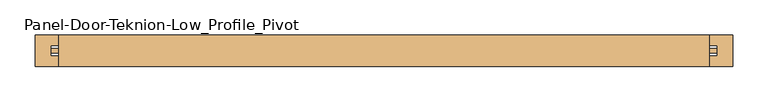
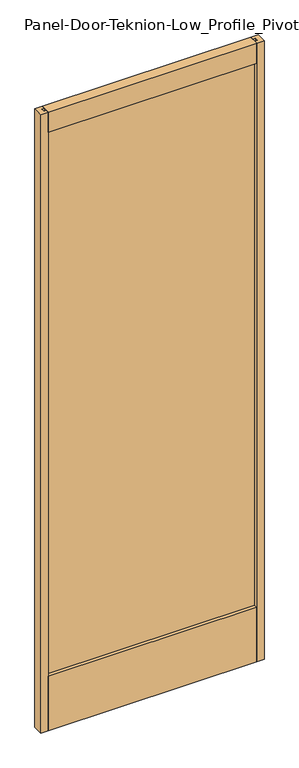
"""IFC4 building model written with IfcOpenShell, lengths in millimetres: door geometry, Panel-Door-Teknion-Low_Profile_Pivot : FPDPZ."""

from ifc_helpers import new_model, si_unit, frame, origin, place, context, project, spatial, polyline, outline, extrude, source, transform, mapped, element, save


def panel_door_teknion_low_profile_pivot_77fa765d(model_context):
    return source(origin(), model_context, "Body", "SweptSolid", [
        extrude(outline(polyline([(472.4201563, 2.8575), (472.4201563, -2.8575), (-472.4201562, -2.8575), (-472.4201562, 2.8575), (472.4201563, 2.8575)])), frame((0.0, 0.0, 95.25), z_axis=(0.0, 0.0, 1.0), x_axis=(1.0, 0.0, 0.0)), (0.0, 0.0, 1.0), 2727.1143997),
        extrude(outline(polyline([(-22.225, 12.7), (-22.225, 266.7), (-6.731, 266.7), (-6.731, 255.27), (6.731, 255.27), (6.731, 266.7), (22.225, 266.7), (22.225, 12.7), (-22.225, 12.7)])), frame((-460.9901562, 0.0, 0.0), z_axis=(1.0, 0.0, 0.0), x_axis=(0.0, 1.0, 0.0)), (0.0, 0.0, 1.0), 921.9803125),
        extrude(outline(polyline([(-22.225, 2904.9143997), (22.225, 2904.9143997), (22.225, 2810.9343997), (6.731, 2810.9343997), (6.731, 2822.3643997), (-6.731, 2822.3643997), (-6.731, 2810.9343997), (-22.225, 2810.9343997), (-22.225, 2904.9143997)])), frame((-460.9901562, 0.0, 0.0), z_axis=(1.0, 0.0, 0.0), x_axis=(0.0, 1.0, 0.0)), (0.0, 0.0, 1.0), 921.9803125),
        extrude(outline(polyline([(-494.0101562, 22.225), (-460.9901562, 22.225), (-460.9901562, 7.239), (-472.4201562, 7.239), (-472.4201562, -7.239), (-460.9901562, -7.239), (-460.9901562, -22.225), (-494.0101562, -22.225), (-494.0101562, 22.225)])), frame((0.0, 0.0, 12.7), z_axis=(0.0, 0.0, 1.0), x_axis=(1.0, 0.0, 0.0)), (0.0, 0.0, 1.0), 2892.2143997),
        extrude(outline(polyline([(494.0101563, 22.225), (494.0101563, -22.225), (460.9901563, -22.225), (460.9901563, -7.239), (472.4201563, -7.239), (472.4201563, 7.239), (460.9901563, 7.239), (460.9901563, 22.225), (494.0101563, 22.225)])), frame((0.0, 0.0, 12.7), z_axis=(0.0, 0.0, 1.0), x_axis=(1.0, 0.0, 0.0)), (0.0, 0.0, 1.0), 2892.2143997),
    ])


if __name__ == "__main__":
    model = new_model("IFC4")
    model_context = context("Model", 3, world=origin())
    ifc_project = project(units=[si_unit("LENGTHUNIT", "METRE", prefix="MILLI")], contexts=[model_context])
    site = spatial("IfcSite", under=ifc_project)
    building = spatial("IfcBuilding", under=site)
    placement = place(None, origin())
    panel_door_teknion_low_profile_pivot_shape = panel_door_teknion_low_profile_pivot_77fa765d(model_context)
    element("IfcDoor", 1, ObjectType="Panel-Door-Teknion-Low_Profile_Pivot : FPDPZ", at=placement, inside=building, context=model_context, shape_type="MappedRepresentation", body=[
        mapped(panel_door_teknion_low_profile_pivot_shape, transform((0.0, 0.0, 0.0), x_axis=(1.0, 0.0, 0.0), y_axis=(0.0, 1.0, 0.0), z_axis=(0.0, 0.0, 1.0))),
    ])
    save(model, "model.ifc")
